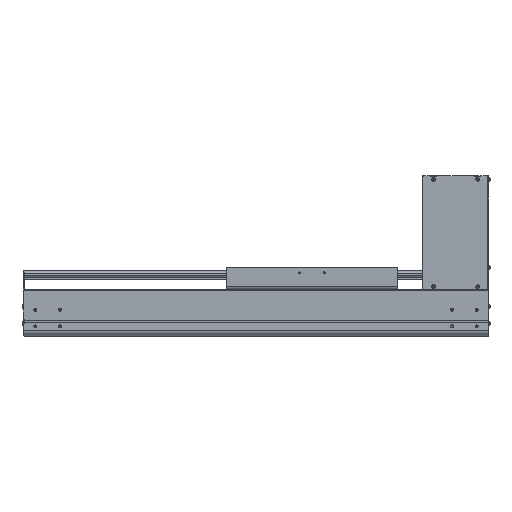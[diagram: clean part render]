
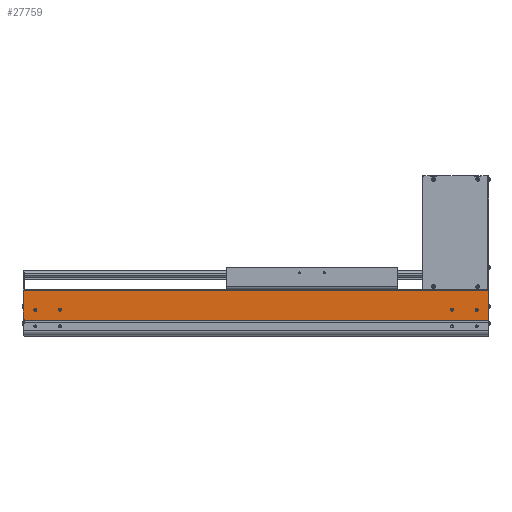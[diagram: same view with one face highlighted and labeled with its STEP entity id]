
A CAD part, top view. The second image highlights one B-rep face of the part: STEP entity #27759.
In plain terms, the highlighted planar face has unit normal (0, 0, 1).
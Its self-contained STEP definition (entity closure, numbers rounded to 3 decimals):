
#626=CARTESIAN_POINT('',(0.,94.,107.));
#7476=DIRECTION('',(-1.,0.,0.));
#7477=VECTOR('',#7476,948.5);
#7478=CARTESIAN_POINT('',(0.,93.5,107.));
#7479=LINE('',#7478,#7477);
#7506=CARTESIAN_POINT('',(-923.5,54.,107.));
#7507=DIRECTION('',(0.,0.,-1.));
#7508=DIRECTION('',(1.,0.,0.));
#7509=AXIS2_PLACEMENT_3D('',#7506,#7507,#7508);
#7511=CARTESIAN_POINT('',(-923.5,54.,107.));
#7512=DIRECTION('',(0.,0.,-1.));
#7513=DIRECTION('',(-1.,0.,0.));
#7514=AXIS2_PLACEMENT_3D('',#7511,#7512,#7513);
#7516=CARTESIAN_POINT('',(-873.5,54.,107.));
#7517=DIRECTION('',(0.,0.,-1.));
#7518=DIRECTION('',(1.,0.,0.));
#7519=AXIS2_PLACEMENT_3D('',#7516,#7517,#7518);
#7521=CARTESIAN_POINT('',(-873.5,54.,107.));
#7522=DIRECTION('',(0.,0.,-1.));
#7523=DIRECTION('',(-1.,0.,0.));
#7524=AXIS2_PLACEMENT_3D('',#7521,#7522,#7523);
#7526=CARTESIAN_POINT('',(-23.5,54.,107.));
#7527=DIRECTION('',(0.,0.,-1.));
#7528=DIRECTION('',(1.,0.,0.));
#7529=AXIS2_PLACEMENT_3D('',#7526,#7527,#7528);
#7531=CARTESIAN_POINT('',(-23.5,54.,107.));
#7532=DIRECTION('',(0.,0.,-1.));
#7533=DIRECTION('',(-1.,0.,0.));
#7534=AXIS2_PLACEMENT_3D('',#7531,#7532,#7533);
#7536=CARTESIAN_POINT('',(-73.5,54.,107.));
#7537=DIRECTION('',(0.,0.,-1.));
#7538=DIRECTION('',(1.,0.,0.));
#7539=AXIS2_PLACEMENT_3D('',#7536,#7537,#7538);
#7541=CARTESIAN_POINT('',(-73.5,54.,107.));
#7542=DIRECTION('',(0.,0.,-1.));
#7543=DIRECTION('',(-1.,0.,0.));
#7544=AXIS2_PLACEMENT_3D('',#7541,#7542,#7543);
#7546=DIRECTION('',(0.,-1.,0.));
#7547=VECTOR('',#7546,2.55);
#7548=CARTESIAN_POINT('',(-946.5,34.65,107.));
#7549=LINE('',#7548,#7547);
#7550=DIRECTION('',(0.,-1.,0.));
#7551=VECTOR('',#7550,58.85);
#7552=CARTESIAN_POINT('',(-948.5,93.5,107.));
#7553=LINE('',#7552,#7551);
#7554=DIRECTION('',(0.,-1.,0.));
#7555=VECTOR('',#7554,0.5);
#7556=CARTESIAN_POINT('',(0.,94.,107.));
#7557=LINE('',#7556,#7555);
#7558=DIRECTION('',(0.,1.,0.));
#7559=VECTOR('',#7558,58.35);
#7560=CARTESIAN_POINT('',(1.5,35.65,107.));
#7561=LINE('',#7560,#7559);
#7562=DIRECTION('',(0.,1.,0.));
#7563=VECTOR('',#7562,3.55);
#7564=CARTESIAN_POINT('',(0.,32.1,107.));
#7565=LINE('',#7564,#7563);
#7566=DIRECTION('',(1.,0.,0.));
#7567=VECTOR('',#7566,946.5);
#7568=CARTESIAN_POINT('',(-946.5,32.1,107.));
#7569=LINE('',#7568,#7567);
#7678=DIRECTION('',(1.,0.,0.));
#7679=VECTOR('',#7678,2.);
#7680=CARTESIAN_POINT('',(-948.5,34.65,107.));
#7681=LINE('',#7680,#7679);
#7706=DIRECTION('',(-1.,0.,0.));
#7707=VECTOR('',#7706,1.5);
#7708=CARTESIAN_POINT('',(1.5,94.,107.));
#7709=LINE('',#7708,#7707);
#7710=DIRECTION('',(1.,0.,0.));
#7711=VECTOR('',#7710,1.5);
#7712=CARTESIAN_POINT('',(0.,35.65,107.));
#7713=LINE('',#7712,#7711);
#14312=CARTESIAN_POINT('',(1.5,94.,107.));
#14313=VERTEX_POINT('',#14312);
#14314=CARTESIAN_POINT('',(1.5,35.65,107.));
#14315=VERTEX_POINT('',#14314);
#14356=VERTEX_POINT('',#626);
#14388=CARTESIAN_POINT('',(-948.5,34.65,107.));
#14389=VERTEX_POINT('',#14388);
#14390=CARTESIAN_POINT('',(-948.5,93.5,107.));
#14391=VERTEX_POINT('',#14390);
#14616=CARTESIAN_POINT('',(-946.5,32.1,107.));
#14617=VERTEX_POINT('',#14616);
#14667=CARTESIAN_POINT('',(0.,32.1,107.));
#14669=VERTEX_POINT('',#14667);
#15058=CARTESIAN_POINT('',(-921.,54.,107.));
#15059=CARTESIAN_POINT('',(-926.,54.,107.));
#15060=VERTEX_POINT('',#15058);
#15061=VERTEX_POINT('',#15059);
#15062=CARTESIAN_POINT('',(-871.,54.,107.));
#15063=CARTESIAN_POINT('',(-876.,54.,107.));
#15064=VERTEX_POINT('',#15062);
#15065=VERTEX_POINT('',#15063);
#15066=CARTESIAN_POINT('',(-21.,54.,107.));
#15067=CARTESIAN_POINT('',(-26.,54.,107.));
#15068=VERTEX_POINT('',#15066);
#15069=VERTEX_POINT('',#15067);
#15070=CARTESIAN_POINT('',(-71.,54.,107.));
#15071=CARTESIAN_POINT('',(-76.,54.,107.));
#15072=VERTEX_POINT('',#15070);
#15073=VERTEX_POINT('',#15071);
#16820=CARTESIAN_POINT('',(0.,35.65,107.));
#16821=VERTEX_POINT('',#16820);
#17066=CARTESIAN_POINT('',(0.,93.5,107.));
#17067=VERTEX_POINT('',#17066);
#17409=CARTESIAN_POINT('',(-946.5,34.65,107.));
#17410=VERTEX_POINT('',#17409);
#27714=CARTESIAN_POINT('',(-473.25,62.8,107.));
#27715=DIRECTION('',(0.,0.,1.));
#27716=DIRECTION('',(0.,-1.,0.));
#27717=AXIS2_PLACEMENT_3D('',#27714,#27715,#27716);
#27718=PLANE('',#27717);
#27719=ORIENTED_EDGE('',*,*,#19652,.F.);
#27721=ORIENTED_EDGE('',*,*,#27720,.F.);
#27722=ORIENTED_EDGE('',*,*,#25332,.F.);
#27723=ORIENTED_EDGE('',*,*,#27703,.F.);
#27724=ORIENTED_EDGE('',*,*,#18765,.F.);
#27726=ORIENTED_EDGE('',*,*,#27725,.F.);
#27727=ORIENTED_EDGE('',*,*,#20651,.F.);
#27729=ORIENTED_EDGE('',*,*,#27728,.F.);
#27730=ORIENTED_EDGE('',*,*,#20413,.F.);
#27732=ORIENTED_EDGE('',*,*,#27731,.F.);
#27733=EDGE_LOOP('',(#27719,#27721,#27722,#27723,#27724,#27726,#27727,#27729,
#27730,#27732));
#27734=FACE_OUTER_BOUND('',#27733,.F.);
#27736=ORIENTED_EDGE('',*,*,#27735,.F.);
#27738=ORIENTED_EDGE('',*,*,#27737,.F.);
#27739=EDGE_LOOP('',(#27736,#27738));
#27740=FACE_BOUND('',#27739,.F.);
#27742=ORIENTED_EDGE('',*,*,#27741,.F.);
#27744=ORIENTED_EDGE('',*,*,#27743,.F.);
#27745=EDGE_LOOP('',(#27742,#27744));
#27746=FACE_BOUND('',#27745,.F.);
#27748=ORIENTED_EDGE('',*,*,#27747,.F.);
#27750=ORIENTED_EDGE('',*,*,#27749,.F.);
#27751=EDGE_LOOP('',(#27748,#27750));
#27752=FACE_BOUND('',#27751,.F.);
#27754=ORIENTED_EDGE('',*,*,#27753,.F.);
#27756=ORIENTED_EDGE('',*,*,#27755,.F.);
#27757=EDGE_LOOP('',(#27754,#27756));
#27758=FACE_BOUND('',#27757,.F.);
#27759=ADVANCED_FACE('',(#27734,#27740,#27746,#27752,#27758),#27718,.T.);
#7510=CIRCLE('',#7509,2.5);
#7515=CIRCLE('',#7514,2.5);
#7520=CIRCLE('',#7519,2.5);
#7525=CIRCLE('',#7524,2.5);
#7530=CIRCLE('',#7529,2.5);
#7535=CIRCLE('',#7534,2.5);
#7540=CIRCLE('',#7539,2.5);
#7545=CIRCLE('',#7544,2.5);
#18765=EDGE_CURVE('',#14356,#17067,#7557,.T.);
#19652=EDGE_CURVE('',#17410,#14617,#7549,.T.);
#20413=EDGE_CURVE('',#14669,#16821,#7565,.T.);
#20651=EDGE_CURVE('',#14315,#14313,#7561,.T.);
#25332=EDGE_CURVE('',#14391,#14389,#7553,.T.);
#27703=EDGE_CURVE('',#17067,#14391,#7479,.T.);
#27720=EDGE_CURVE('',#14389,#17410,#7681,.T.);
#27725=EDGE_CURVE('',#14313,#14356,#7709,.T.);
#27728=EDGE_CURVE('',#16821,#14315,#7713,.T.);
#27731=EDGE_CURVE('',#14617,#14669,#7569,.T.);
#27735=EDGE_CURVE('',#15064,#15065,#7520,.T.);
#27737=EDGE_CURVE('',#15065,#15064,#7525,.T.);
#27741=EDGE_CURVE('',#15068,#15069,#7530,.T.);
#27743=EDGE_CURVE('',#15069,#15068,#7535,.T.);
#27747=EDGE_CURVE('',#15072,#15073,#7540,.T.);
#27749=EDGE_CURVE('',#15073,#15072,#7545,.T.);
#27753=EDGE_CURVE('',#15060,#15061,#7510,.T.);
#27755=EDGE_CURVE('',#15061,#15060,#7515,.T.);
